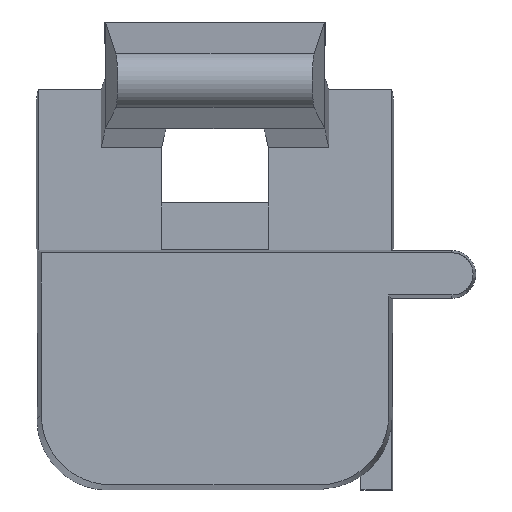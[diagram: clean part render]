
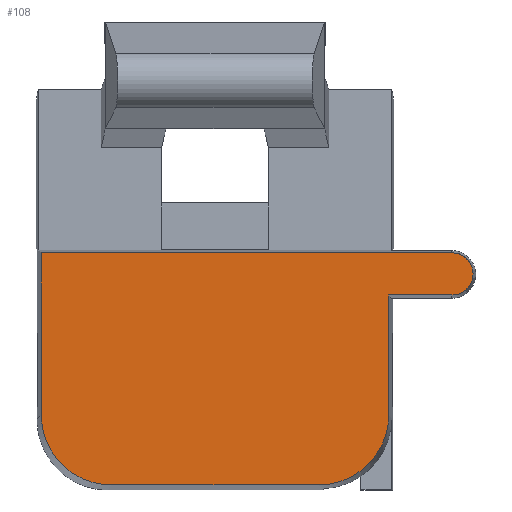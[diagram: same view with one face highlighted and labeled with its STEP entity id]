
A CAD part, top view. The second image highlights one B-rep face of the part: STEP entity #108.
In plain terms, the highlighted planar face has unit normal (0, 0, 1).
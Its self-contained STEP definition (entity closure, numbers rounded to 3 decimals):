
#36=CIRCLE('',#1179,0.75);
#46=ELLIPSE('',#1154,2.5,2.5);
#47=ELLIPSE('',#1156,2.5,2.5);
#108=ADVANCED_FACE('',(#214),#160,.T.);
#160=PLANE('',#1206);
#214=FACE_OUTER_BOUND('',#272,.T.);
#272=EDGE_LOOP('',(#579,#580,#581,#582,#583,#584,#585,#586));
#579=ORIENTED_EDGE('',*,*,#704,.F.);
#580=ORIENTED_EDGE('',*,*,#749,.T.);
#581=ORIENTED_EDGE('',*,*,#757,.T.);
#582=ORIENTED_EDGE('',*,*,#714,.T.);
#583=ORIENTED_EDGE('',*,*,#759,.T.);
#584=ORIENTED_EDGE('',*,*,#773,.T.);
#585=ORIENTED_EDGE('',*,*,#801,.F.);
#586=ORIENTED_EDGE('',*,*,#804,.F.);
#598=VERTEX_POINT('',#1519);
#599=VERTEX_POINT('',#1521);
#608=VERTEX_POINT('',#1540);
#609=VERTEX_POINT('',#1542);
#635=VERTEX_POINT('',#1608);
#641=VERTEX_POINT('',#1626);
#650=VERTEX_POINT('',#1654);
#668=VERTEX_POINT('',#1711);
#704=EDGE_CURVE('',#598,#599,#861,.T.);
#714=EDGE_CURVE('',#609,#608,#871,.T.);
#749=EDGE_CURVE('',#598,#635,#904,.T.);
#757=EDGE_CURVE('',#635,#609,#46,.T.);
#759=EDGE_CURVE('',#608,#641,#47,.T.);
#773=EDGE_CURVE('',#641,#650,#923,.T.);
#801=EDGE_CURVE('',#668,#650,#951,.T.);
#804=EDGE_CURVE('',#599,#668,#36,.T.);
#861=LINE('',#1520,#1007);
#871=LINE('',#1541,#1017);
#904=LINE('',#1609,#1050);
#923=LINE('',#1655,#1069);
#951=LINE('',#1712,#1097);
#1007=VECTOR('',#1231,1.);
#1017=VECTOR('',#1243,1.);
#1050=VECTOR('',#1292,1.);
#1069=VECTOR('',#1335,1.);
#1097=VECTOR('',#1385,1.);
#1154=AXIS2_PLACEMENT_3D('',#1623,#1302,#1303);
#1156=AXIS2_PLACEMENT_3D('',#1628,#1307,#1308);
#1179=AXIS2_PLACEMENT_3D('',#1717,#1393,#1394);
#1206=AXIS2_PLACEMENT_3D('',#1805,#1487,#1488);
#1231=DIRECTION('',(1.,0.,0.));
#1243=DIRECTION('',(1.,0.,0.));
#1292=DIRECTION('',(0.,-1.,0.));
#1302=DIRECTION('',(0.,0.,1.));
#1303=DIRECTION('',(0.707,0.707,0.));
#1307=DIRECTION('',(0.,0.,1.));
#1308=DIRECTION('',(-0.707,0.707,0.));
#1335=DIRECTION('',(0.,1.,0.));
#1385=DIRECTION('',(-1.,0.,0.));
#1393=DIRECTION('',(0.,0.,-1.));
#1394=DIRECTION('',(1.,0.,0.));
#1487=DIRECTION('',(0.,0.,1.));
#1488=DIRECTION('',(0.,-1.,0.));
#1519=CARTESIAN_POINT('',(-6.18,4.13,4.612));
#1520=CARTESIAN_POINT('',(0.,4.13,4.612));
#1521=CARTESIAN_POINT('',(8.43,4.13,4.612));
#1540=CARTESIAN_POINT('',(3.68,-4.13,4.612));
#1541=CARTESIAN_POINT('',(0.,-4.13,4.612));
#1542=CARTESIAN_POINT('',(-3.68,-4.13,4.612));
#1608=CARTESIAN_POINT('',(-6.18,-1.63,4.612));
#1609=CARTESIAN_POINT('',(-6.18,0.,4.612));
#1623=CARTESIAN_POINT('',(-3.68,-1.63,4.612));
#1626=CARTESIAN_POINT('',(6.18,-1.63,4.612));
#1628=CARTESIAN_POINT('',(3.68,-1.63,4.612));
#1654=CARTESIAN_POINT('',(6.18,2.63,4.612));
#1655=CARTESIAN_POINT('',(6.18,0.,4.612));
#1711=CARTESIAN_POINT('',(8.43,2.63,4.612));
#1712=CARTESIAN_POINT('',(0.,2.63,4.612));
#1717=CARTESIAN_POINT('',(8.43,3.38,4.612));
#1805=CARTESIAN_POINT('',(0.,0.,4.612));
